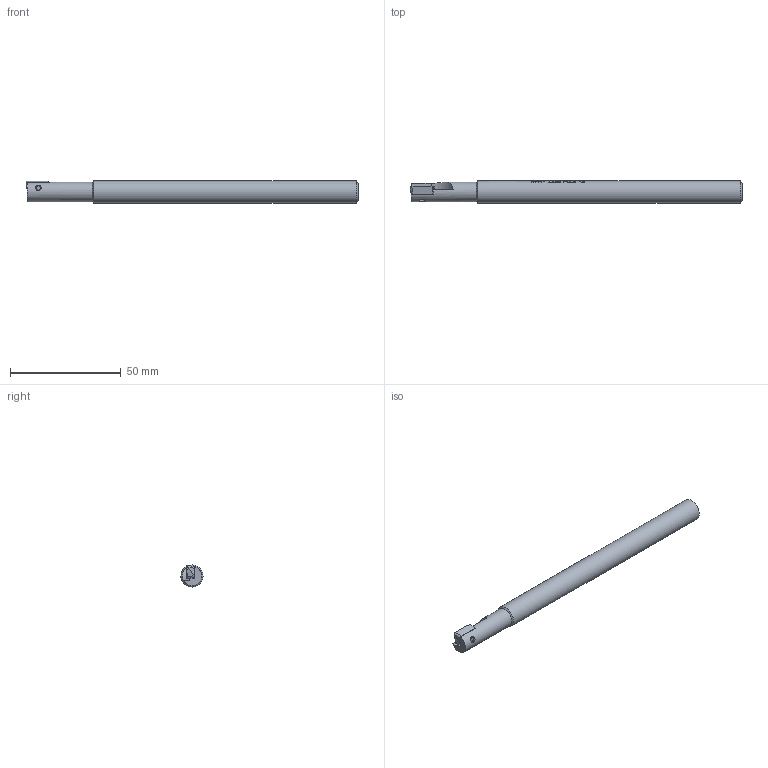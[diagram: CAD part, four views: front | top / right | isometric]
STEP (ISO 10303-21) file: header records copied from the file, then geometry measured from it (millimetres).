
FILE_DESCRIPTION(/* description */ (''),/* implementation_level */ '2;1');
FILE_NAME(/* name */ 'Z:\Проектный отдел\Арина\Токарные инструменты\Фрезы и резцы\BAP300R-C10-10-150-1T\BAP300R-C10-10-150-1T.stp',/* time_stamp */ '2023-05-31T16:29:24+03:00',/* author */ ('user'),/* organization */ (''),/* preprocessor_version */ 'ST-DEVELOPER v18',/* originating_system */ 'Autodesk Inventor 2020',/* authorisation */ '');
FILE_SCHEMA (('AUTOMOTIVE_DESIGN { 1 0 10303 214 3 1 1 }'));
Length unit declared in the file: millimetre
Products named in the file (4): BAP300R-C10-10-150-1T; BAP300R-C10-10-150-1T_1; Напайка; Болт
Assembly tree (3 placements, depth 2):
  BAP300R-C10-10-150-1T
    BAP300R-C10-10-150-1T_1
    Напайка
    Болт
Bounding box: 150 x 10 x 10 mm (x, y, z)
Volume: 10953.4 mm3; surface area: 5099 mm2
Topology: 3 solids, 3 shells, 605 faces, 1646 edges, 1098 vertices
Faces by surface type: plane 275, bspline 258, cylinder 67, cone 5
Full cylindrical faces by diameter (mm): 2.5 x4, 3.1 x1, 3.3 x1, 8.8 x1, 10 x1
Entity records: 26392 total; most frequent: CARTESIAN_POINT 12357, ORIENTED_EDGE 3292, DIRECTION 2179, EDGE_CURVE 1646, VERTEX_POINT 1098, LINE 811, VECTOR 811, AXIS2_PLACEMENT_3D 684
